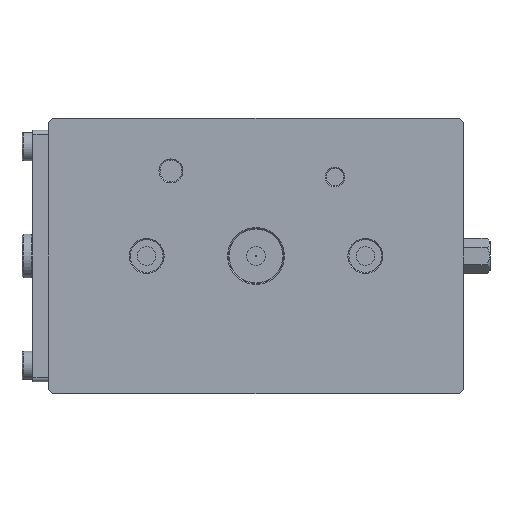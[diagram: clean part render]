
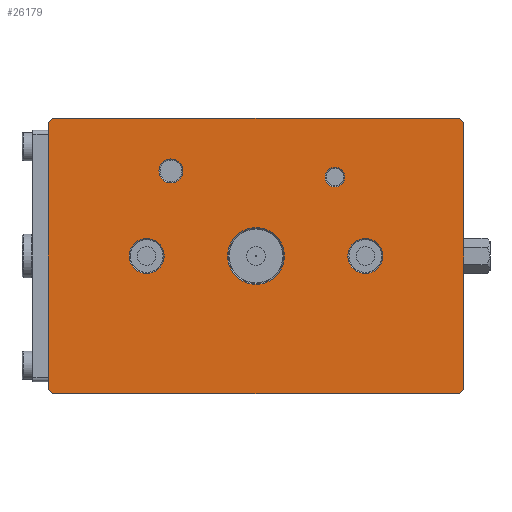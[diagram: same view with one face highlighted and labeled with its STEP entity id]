
A CAD part, front view. The second image highlights one B-rep face of the part: STEP entity #26179.
In plain terms, the highlighted planar face has unit normal (0, -1, 0).
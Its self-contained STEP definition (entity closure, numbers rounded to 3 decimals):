
#438 = FACE_BOUND ( 'NONE', #54410, .T. ) ;
#768 = FACE_BOUND ( 'NONE', #12765, .T. ) ;
#1085 = CARTESIAN_POINT ( 'NONE',  ( -93., -56., -63. ) ) ;
#2053 = CARTESIAN_POINT ( 'NONE',  ( -38.891, -56., 38.891 ) ) ;
#2940 = EDGE_CURVE ( 'NONE', #4361, #53441, #59657, .T. ) ;
#3078 = LINE ( 'NONE', #59469, #6580 ) ;
#3200 = ORIENTED_EDGE ( 'NONE', *, *, #31686, .T. ) ;
#3971 = ORIENTED_EDGE ( 'NONE', *, *, #40682, .T. ) ;
#4032 = ORIENTED_EDGE ( 'NONE', *, *, #22964, .T. ) ;
#4361 = VERTEX_POINT ( 'NONE', #64232 ) ;
#4901 = AXIS2_PLACEMENT_3D ( 'NONE', #10158, #65904, #55183 ) ;
#5228 = VECTOR ( 'NONE', #57007, 1000. ) ;
#5231 = CARTESIAN_POINT ( 'NONE',  ( 50., -56., 0. ) ) ;
#5817 = FACE_BOUND ( 'NONE', #6778, .T. ) ;
#6203 = VECTOR ( 'NONE', #57617, 1000. ) ;
#6580 = VECTOR ( 'NONE', #33944, 1000. ) ;
#6657 = ORIENTED_EDGE ( 'NONE', *, *, #60070, .T. ) ;
#6778 = EDGE_LOOP ( 'NONE', ( #4032 ) ) ;
#7002 = LINE ( 'NONE', #37211, #19033 ) ;
#7164 = ORIENTED_EDGE ( 'NONE', *, *, #7844, .F. ) ;
#7844 = EDGE_CURVE ( 'NONE', #4361, #53675, #39494, .T. ) ;
#7888 = CARTESIAN_POINT ( 'NONE',  ( 95., -56., -61. ) ) ;
#9875 = CARTESIAN_POINT ( 'NONE',  ( 95., -56., 63. ) ) ;
#10158 = CARTESIAN_POINT ( 'NONE',  ( -50., -56., 0. ) ) ;
#10285 = LINE ( 'NONE', #21993, #6203 ) ;
#10340 = AXIS2_PLACEMENT_3D ( 'NONE', #65439, #28835, #48680 ) ;
#11158 = DIRECTION ( 'NONE',  ( 0.707, 0., -0.707 ) ) ;
#11175 = DIRECTION ( 'NONE',  ( 0., 0., 1. ) ) ;
#11806 = CARTESIAN_POINT ( 'NONE',  ( -93., -56., 63. ) ) ;
#11989 = EDGE_CURVE ( 'NONE', #15249, #36408, #7002, .T. ) ;
#12765 = EDGE_LOOP ( 'NONE', ( #34075 ) ) ;
#12960 = VECTOR ( 'NONE', #33806, 1000. ) ;
#13246 = AXIS2_PLACEMENT_3D ( 'NONE', #2053, #22523, #43010 ) ;
#15100 = CARTESIAN_POINT ( 'NONE',  ( -38.891, -56., 44.391 ) ) ;
#15249 = VERTEX_POINT ( 'NONE', #60965 ) ;
#15364 = AXIS2_PLACEMENT_3D ( 'NONE', #9875, #36681, #11175 ) ;
#16219 = PLANE ( 'NONE',  #15364 ) ;
#18253 = ORIENTED_EDGE ( 'NONE', *, *, #50223, .T. ) ;
#18888 = VERTEX_POINT ( 'NONE', #51597 ) ;
#19033 = VECTOR ( 'NONE', #21439, 1000. ) ;
#19155 = EDGE_CURVE ( 'NONE', #61115, #61115, #62574, .T. ) ;
#19947 = ORIENTED_EDGE ( 'NONE', *, *, #22681, .T. ) ;
#20789 = VERTEX_POINT ( 'NONE', #21786 ) ;
#21234 = FACE_BOUND ( 'NONE', #31170, .T. ) ;
#21439 = DIRECTION ( 'NONE',  ( -1., 0., 0. ) ) ;
#21786 = CARTESIAN_POINT ( 'NONE',  ( 36.062, -56., 40.562 ) ) ;
#21993 = CARTESIAN_POINT ( 'NONE',  ( -95., -56., 63. ) ) ;
#22523 = DIRECTION ( 'NONE',  ( 0., 1., 0. ) ) ;
#22681 = EDGE_CURVE ( 'NONE', #53441, #41981, #36834, .T. ) ;
#22964 = EDGE_CURVE ( 'NONE', #42271, #42271, #49195, .T. ) ;
#23722 = CARTESIAN_POINT ( 'NONE',  ( 95., -56., 61. ) ) ;
#24454 = CARTESIAN_POINT ( 'NONE',  ( 93., -56., 63. ) ) ;
#25687 = DIRECTION ( 'NONE',  ( 0., 0., 1. ) ) ;
#26179 = ADVANCED_FACE ( 'NONE', ( #46437, #438, #5817, #768, #21234, #41724 ), #16219, .F. ) ;
#28158 = VERTEX_POINT ( 'NONE', #33189 ) ;
#28835 = DIRECTION ( 'NONE',  ( 0., 1., 0. ) ) ;
#31170 = EDGE_LOOP ( 'NONE', ( #3971 ) ) ;
#31686 = EDGE_CURVE ( 'NONE', #18888, #36408, #56492, .T. ) ;
#32190 = CARTESIAN_POINT ( 'NONE',  ( 0., -56., 13. ) ) ;
#32803 = CIRCLE ( 'NONE', #10340, 13. ) ;
#32900 = AXIS2_PLACEMENT_3D ( 'NONE', #56849, #58181, #37347 ) ;
#33189 = CARTESIAN_POINT ( 'NONE',  ( -50., -56., 8. ) ) ;
#33806 = DIRECTION ( 'NONE',  ( -0.707, 0., 0.707 ) ) ;
#33944 = DIRECTION ( 'NONE',  ( -0.707, 0., -0.707 ) ) ;
#34075 = ORIENTED_EDGE ( 'NONE', *, *, #52330, .T. ) ;
#34447 = DIRECTION ( 'NONE',  ( 0., 0., -1. ) ) ;
#36408 = VERTEX_POINT ( 'NONE', #65063 ) ;
#36681 = DIRECTION ( 'NONE',  ( 0., 1., 0. ) ) ;
#36834 = LINE ( 'NONE', #52303, #5228 ) ;
#37211 = CARTESIAN_POINT ( 'NONE',  ( 95., -56., -63. ) ) ;
#37347 = DIRECTION ( 'NONE',  ( 0., 0., 1. ) ) ;
#37481 = CARTESIAN_POINT ( 'NONE',  ( -95., -56., 61. ) ) ;
#38281 = EDGE_CURVE ( 'NONE', #20789, #20789, #55469, .T. ) ;
#39494 = LINE ( 'NONE', #50576, #62325 ) ;
#39785 = VECTOR ( 'NONE', #52558, 1000. ) ;
#40340 = ORIENTED_EDGE ( 'NONE', *, *, #2940, .T. ) ;
#40682 = EDGE_CURVE ( 'NONE', #62111, #62111, #32803, .T. ) ;
#41724 = FACE_OUTER_BOUND ( 'NONE', #48951, .T. ) ;
#41981 = VERTEX_POINT ( 'NONE', #11806 ) ;
#42271 = VERTEX_POINT ( 'NONE', #62761 ) ;
#43010 = DIRECTION ( 'NONE',  ( 0., 0., 1. ) ) ;
#45953 = AXIS2_PLACEMENT_3D ( 'NONE', #5231, #61962, #25687 ) ;
#46437 = FACE_BOUND ( 'NONE', #47731, .T. ) ;
#47513 = LINE ( 'NONE', #62638, #39785 ) ;
#47731 = EDGE_LOOP ( 'NONE', ( #61014 ) ) ;
#48028 = ORIENTED_EDGE ( 'NONE', *, *, #54793, .T. ) ;
#48680 = DIRECTION ( 'NONE',  ( 0., 0., 1. ) ) ;
#48951 = EDGE_LOOP ( 'NONE', ( #7164, #40340, #19947, #6657, #18253, #3200, #53626, #48028 ) ) ;
#49195 = CIRCLE ( 'NONE', #45953, 8. ) ;
#50223 = EDGE_CURVE ( 'NONE', #63713, #18888, #10285, .T. ) ;
#50325 = VECTOR ( 'NONE', #11158, 1000. ) ;
#50576 = CARTESIAN_POINT ( 'NONE',  ( 95., -56., 63. ) ) ;
#51597 = CARTESIAN_POINT ( 'NONE',  ( -95., -56., -61. ) ) ;
#52303 = CARTESIAN_POINT ( 'NONE',  ( 95., -56., 63. ) ) ;
#52330 = EDGE_CURVE ( 'NONE', #28158, #28158, #54238, .T. ) ;
#52558 = DIRECTION ( 'NONE',  ( 0.707, 0., 0.707 ) ) ;
#53441 = VERTEX_POINT ( 'NONE', #24454 ) ;
#53626 = ORIENTED_EDGE ( 'NONE', *, *, #11989, .F. ) ;
#53675 = VERTEX_POINT ( 'NONE', #7888 ) ;
#54238 = CIRCLE ( 'NONE', #4901, 8. ) ;
#54410 = EDGE_LOOP ( 'NONE', ( #56157 ) ) ;
#54793 = EDGE_CURVE ( 'NONE', #15249, #53675, #47513, .T. ) ;
#55183 = DIRECTION ( 'NONE',  ( 0., 0., 1. ) ) ;
#55469 = CIRCLE ( 'NONE', #32900, 4.5 ) ;
#56157 = ORIENTED_EDGE ( 'NONE', *, *, #19155, .T. ) ;
#56492 = LINE ( 'NONE', #1085, #50325 ) ;
#56849 = CARTESIAN_POINT ( 'NONE',  ( 36.062, -56., 36.062 ) ) ;
#57007 = DIRECTION ( 'NONE',  ( -1., 0., 0. ) ) ;
#57617 = DIRECTION ( 'NONE',  ( 0., 0., -1. ) ) ;
#58181 = DIRECTION ( 'NONE',  ( 0., 1., 0. ) ) ;
#59469 = CARTESIAN_POINT ( 'NONE',  ( -93., -56., 63. ) ) ;
#59657 = LINE ( 'NONE', #23722, #12960 ) ;
#60070 = EDGE_CURVE ( 'NONE', #41981, #63713, #3078, .T. ) ;
#60965 = CARTESIAN_POINT ( 'NONE',  ( 93., -56., -63. ) ) ;
#61014 = ORIENTED_EDGE ( 'NONE', *, *, #38281, .T. ) ;
#61115 = VERTEX_POINT ( 'NONE', #15100 ) ;
#61962 = DIRECTION ( 'NONE',  ( 0., 1., 0. ) ) ;
#62111 = VERTEX_POINT ( 'NONE', #32190 ) ;
#62325 = VECTOR ( 'NONE', #34447, 1000. ) ;
#62574 = CIRCLE ( 'NONE', #13246, 5.5 ) ;
#62638 = CARTESIAN_POINT ( 'NONE',  ( 95., -56., -61. ) ) ;
#62761 = CARTESIAN_POINT ( 'NONE',  ( 50., -56., 8. ) ) ;
#63713 = VERTEX_POINT ( 'NONE', #37481 ) ;
#64232 = CARTESIAN_POINT ( 'NONE',  ( 95., -56., 61. ) ) ;
#65063 = CARTESIAN_POINT ( 'NONE',  ( -93., -56., -63. ) ) ;
#65439 = CARTESIAN_POINT ( 'NONE',  ( 0., -56., 0. ) ) ;
#65904 = DIRECTION ( 'NONE',  ( 0., 1., 0. ) ) ;
